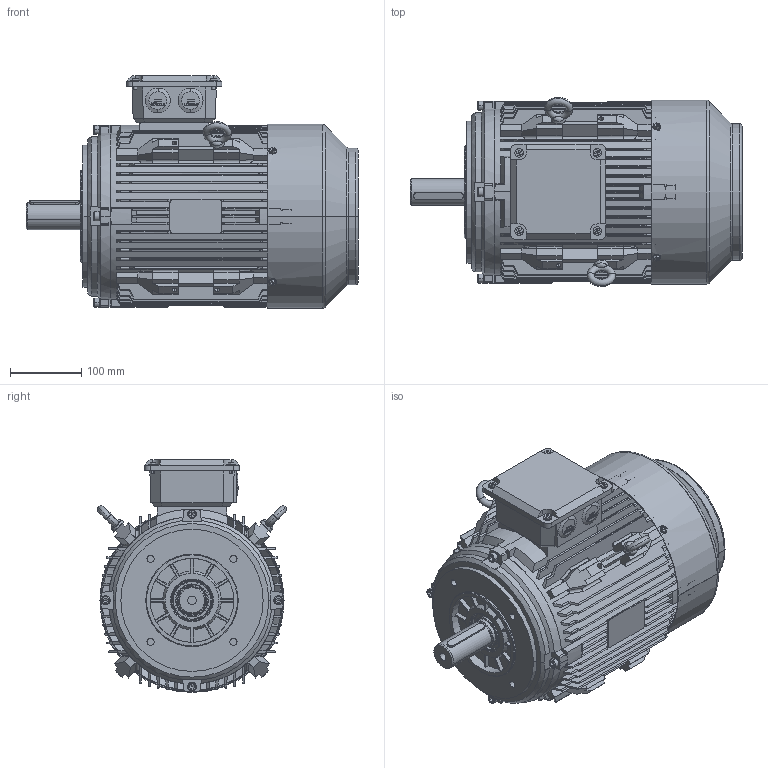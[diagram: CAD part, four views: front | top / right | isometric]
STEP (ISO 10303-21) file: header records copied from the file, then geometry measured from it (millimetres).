
FILE_DESCRIPTION (( 'STEP AP203' ), '1' );
FILE_NAME ('TC 132S B14外形图.STEP', '2013-11-01T08:22:16', ( '微软用户' ), ( '微软中国' ), 'SwSTEP 2.0', 'SolidWorks 2008', '' );
FILE_SCHEMA (( 'CONFIG_CONTROL_DESIGN' ));
Products named in the file (19): TC 132S （波形垫在前）轴_默认; 6308_默认; 油封40-58-7_默认; 风罩_默认; M5-8_默认; 平键10-70_默认; TC 132S B14俋倛芞; TC 132S B5 机座_默认; TC 132 B14 法兰_默认; TC 132 B3 端盖_默认; TC 132S转子_默认; TC 112-132接线盒座_默认; TC 112-132接线盒盖_默认; M25螺塞_默认; 132风叶_默认; M8-30_默认; 8_默认; M5-12_默认; 吊环M8_默认
Assembly tree (34 placements, depth 3):
  TC 132S B14俋倛芞
    TC 132S B5 机座_默认
    TC 132S转子_默认
      6308_默认  x2
      TC 132S （波形垫在前）轴_默认
    M8-30_默认  x4
    M5-12_默认  x4
    油封40-58-7_默认  x2
    M5-8_默认  x4
    TC 132 B3 端盖_默认
    平键10-70_默认
    吊环M8_默认  x2
    8_默认  x4
    TC 112-132接线盒盖_默认
    M25螺塞_默认  x2
    132风叶_默认
    TC 112-132接线盒座_默认
    风罩_默认
    TC 132 B14 法兰_默认
Bounding box: 467 x 265.93 x 327.5 mm (x, y, z)
Volume: 4184946.3 mm3; surface area: 1584723.8 mm2
Topology: 33 solids, 33 shells, 4102 faces, 11346 edges, 7406 vertices
Faces by surface type: plane 1996, cylinder 1489, cone 355, torus 150, bspline 112
Entity records: 131706 total; most frequent: CARTESIAN_POINT 35719, ORIENTED_EDGE 20352, DIRECTION 18651, EDGE_CURVE 10176, VERTEX_POINT 6684, AXIS2_PLACEMENT_3D 6457, LINE 5737, VECTOR 5737
